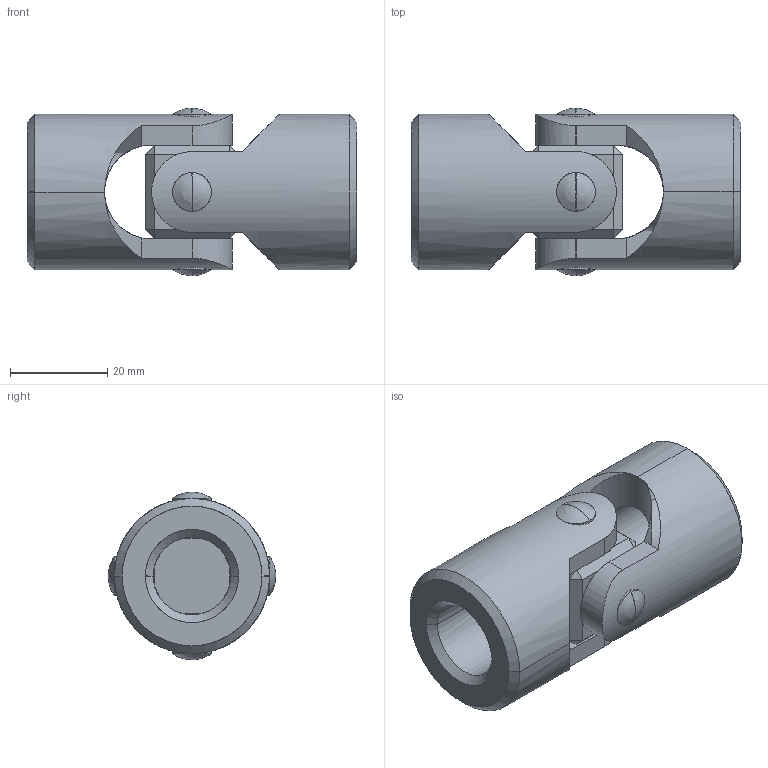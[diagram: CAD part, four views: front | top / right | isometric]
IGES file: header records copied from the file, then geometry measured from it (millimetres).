
Start section: SolidWorks IGES file using analytic representation for surfaces
Global section: file name: E:\WIXROYD\65186_v2\65186_v2_20180418_IGES\65186.W0016.igs; native system: SolidWorks 2017; preprocessor: SolidWorks 2017; author: liam_; date: 180618.201746; units: millimetre
Bounding box: 68 x 34.56 x 34.56 mm (x, y, z)
Surface area: 15682 mm2 (no closed solid volume)
Topology: 0 solids, 0 shells, 100 faces, 1884 edges, 1880 vertices
Faces by surface type: revolution 52, bspline 48
